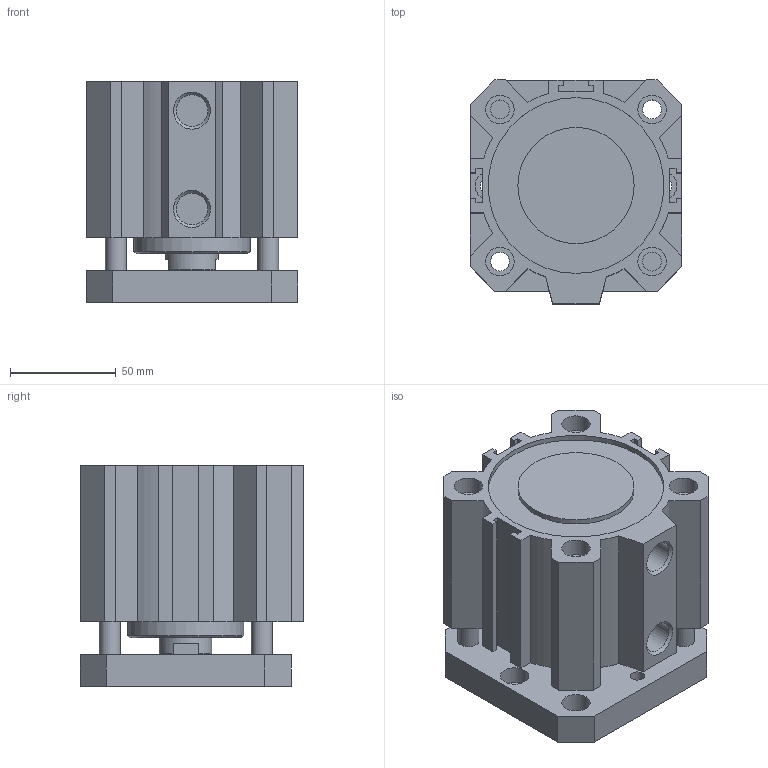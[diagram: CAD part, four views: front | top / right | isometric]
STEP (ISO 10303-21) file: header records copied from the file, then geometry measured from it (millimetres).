
FILE_DESCRIPTION(/* description */ (''),/* implementation_level */ '2;1');
FILE_NAME(/* name */ 'I:\Area Tecnica\Disegni\VARIE-3D\Componenti\1500\Ø80\15##_80_####_#\1501_80_0030_AR.stp',/* time_stamp */ '2016-08-24T14:12:09+02:00',/* author */ ('Maniean1'),/* organization */ ('Pneumax S.p.A.'),/* preprocessor_version */ 'ST-DEVELOPER v15.2',/* originating_system */ 'Autodesk Inventor 2014',/* authorisation */ '');
FILE_SCHEMA (('AUTOMOTIVE_DESIGN { 1 0 10303 214 3 1 1 }'));
Length unit declared in the file: millimetre
Products named in the file (3): C_1501_80_0030_AR; S_1501_80_0030_AR; 1501_80_0030_AR
Bounding box: 100 x 106 x 104.5 mm (x, y, z)
Volume: 621014.5 mm3; surface area: 141896.6 mm2
Topology: 2 solids, 2 shells, 139 faces, 341 edges, 228 vertices
Faces by surface type: plane 94, cylinder 40, cone 5
Full cylindrical faces by diameter (mm): 6.647 x2, 8.5 x2, 9 x4, 10 x4, 13.5 x10, 14.95 x2, 25 x2, 55 x2, 80 x2, 83.2 x2
Entity records: 4083 total; most frequent: CARTESIAN_POINT 674, DIRECTION 672, ORIENTED_EDGE 600, EDGE_CURVE 300, AXIS2_PLACEMENT_3D 232, VERTEX_POINT 222, EDGE_LOOP 216, LINE 208
